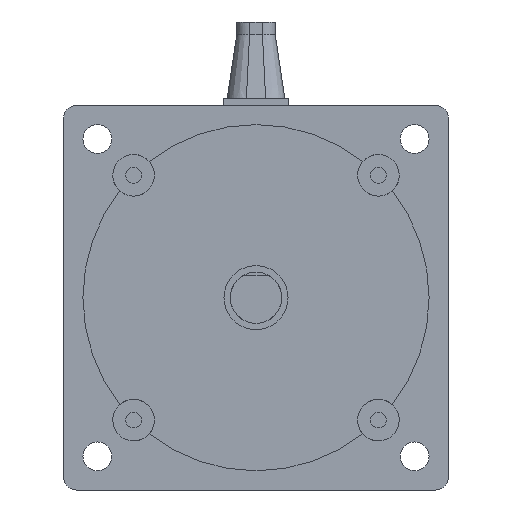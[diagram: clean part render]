
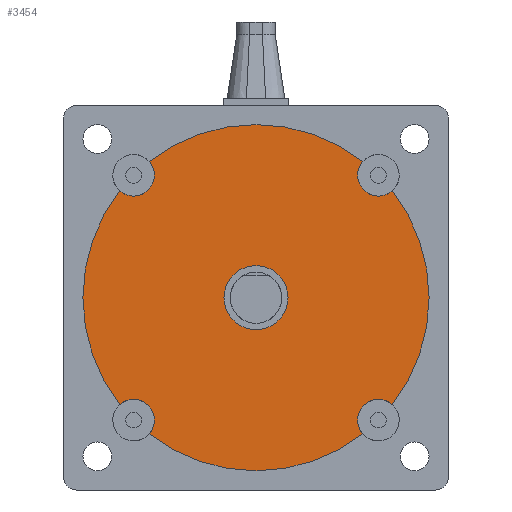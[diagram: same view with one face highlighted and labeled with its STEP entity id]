
A CAD part, front view. The second image highlights one B-rep face of the part: STEP entity #3454.
In plain terms, the highlighted planar face has unit normal (0, -1, 0).
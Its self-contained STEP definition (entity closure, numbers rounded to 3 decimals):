
#99=CIRCLE('',#3626,27.);
#102=CIRCLE('',#3630,27.);
#103=CIRCLE('',#3632,27.);
#121=CIRCLE('',#3656,27.);
#122=CIRCLE('',#3658,5.);
#123=CIRCLE('',#3659,3.25);
#124=CIRCLE('',#3660,3.25);
#125=CIRCLE('',#3661,3.25);
#126=CIRCLE('',#3662,3.25);
#330=ORIENTED_EDGE('',*,*,#988,.T.);
#331=ORIENTED_EDGE('',*,*,#955,.F.);
#332=ORIENTED_EDGE('',*,*,#989,.T.);
#333=ORIENTED_EDGE('',*,*,#987,.F.);
#334=ORIENTED_EDGE('',*,*,#990,.T.);
#335=ORIENTED_EDGE('',*,*,#953,.F.);
#336=ORIENTED_EDGE('',*,*,#991,.T.);
#337=ORIENTED_EDGE('',*,*,#947,.F.);
#338=ORIENTED_EDGE('',*,*,#992,.T.);
#947=EDGE_CURVE('',#1280,#1282,#99,.T.);
#953=EDGE_CURVE('',#1287,#1285,#102,.T.);
#955=EDGE_CURVE('',#1288,#1290,#103,.T.);
#987=EDGE_CURVE('',#1308,#1307,#121,.T.);
#988=EDGE_CURVE('',#1309,#1309,#122,.T.);
#989=EDGE_CURVE('',#1288,#1307,#123,.T.);
#990=EDGE_CURVE('',#1308,#1285,#124,.T.);
#991=EDGE_CURVE('',#1287,#1282,#125,.T.);
#992=EDGE_CURVE('',#1280,#1290,#126,.T.);
#1280=VERTEX_POINT('',#4722);
#1282=VERTEX_POINT('',#4725);
#1285=VERTEX_POINT('',#4732);
#1287=VERTEX_POINT('',#4736);
#1288=VERTEX_POINT('',#4740);
#1290=VERTEX_POINT('',#4743);
#1307=VERTEX_POINT('',#4796);
#1308=VERTEX_POINT('',#4798);
#1309=VERTEX_POINT('',#4802);
#1936=EDGE_LOOP('',(#330));
#1937=EDGE_LOOP('',(#331,#332,#333,#334,#335,#336,#337,#338));
#2150=FACE_BOUND('',#1936,.T.);
#2151=FACE_BOUND('',#1937,.T.);
#2342=PLANE('',#3657);
#3454=ADVANCED_FACE('',(#2150,#2151),#2342,.F.);
#3626=AXIS2_PLACEMENT_3D('',#4724,#3924,#3925);
#3630=AXIS2_PLACEMENT_3D('',#4737,#3935,#3936);
#3632=AXIS2_PLACEMENT_3D('',#4742,#3940,#3941);
#3656=AXIS2_PLACEMENT_3D('',#4799,#4002,#4003);
#3657=AXIS2_PLACEMENT_3D('',#4800,#4004,#4005);
#3658=AXIS2_PLACEMENT_3D('',#4801,#4006,#4007);
#3659=AXIS2_PLACEMENT_3D('',#4803,#4008,#4009);
#3660=AXIS2_PLACEMENT_3D('',#4804,#4010,#4011);
#3661=AXIS2_PLACEMENT_3D('',#4805,#4012,#4013);
#3662=AXIS2_PLACEMENT_3D('',#4806,#4014,#4015);
#3924=DIRECTION('',(0.,1.,0.));
#3925=DIRECTION('',(1.,0.,0.));
#3935=DIRECTION('',(0.,1.,0.));
#3936=DIRECTION('',(1.,0.,0.));
#3940=DIRECTION('',(0.,1.,0.));
#3941=DIRECTION('',(1.,0.,0.));
#4002=DIRECTION('',(0.,1.,0.));
#4003=DIRECTION('',(1.,0.,0.));
#4004=DIRECTION('',(0.,1.,0.));
#4005=DIRECTION('',(0.,0.,1.));
#4006=DIRECTION('',(0.,1.,0.));
#4007=DIRECTION('',(1.,0.,0.));
#4008=DIRECTION('',(0.,1.,0.));
#4009=DIRECTION('',(0.,0.,-1.));
#4010=DIRECTION('',(0.,1.,0.));
#4011=DIRECTION('',(0.,0.,-1.));
#4012=DIRECTION('',(0.,1.,0.));
#4013=DIRECTION('',(0.,0.,-1.));
#4014=DIRECTION('',(0.,1.,0.));
#4015=DIRECTION('',(0.,0.,-1.));
#4722=CARTESIAN_POINT('',(16.66,-8.,-21.248));
#4724=CARTESIAN_POINT('',(0.,-8.,0.));
#4725=CARTESIAN_POINT('',(-16.66,-8.,-21.248));
#4732=CARTESIAN_POINT('',(-21.248,-8.,16.66));
#4736=CARTESIAN_POINT('',(-21.248,-8.,-16.66));
#4737=CARTESIAN_POINT('',(0.,-8.,0.));
#4740=CARTESIAN_POINT('',(21.248,-8.,16.66));
#4742=CARTESIAN_POINT('',(0.,-8.,0.));
#4743=CARTESIAN_POINT('',(21.248,-8.,-16.66));
#4796=CARTESIAN_POINT('',(16.66,-8.,21.248));
#4798=CARTESIAN_POINT('',(-16.66,-8.,21.248));
#4799=CARTESIAN_POINT('',(0.,-8.,0.));
#4800=CARTESIAN_POINT('',(0.,-8.,0.));
#4801=CARTESIAN_POINT('',(0.,-8.,0.));
#4802=CARTESIAN_POINT('',(5.,-8.,0.));
#4803=CARTESIAN_POINT('',(19.092,-8.,19.092));
#4804=CARTESIAN_POINT('',(-19.092,-8.,19.092));
#4805=CARTESIAN_POINT('',(-19.092,-8.,-19.092));
#4806=CARTESIAN_POINT('',(19.092,-8.,-19.092));
